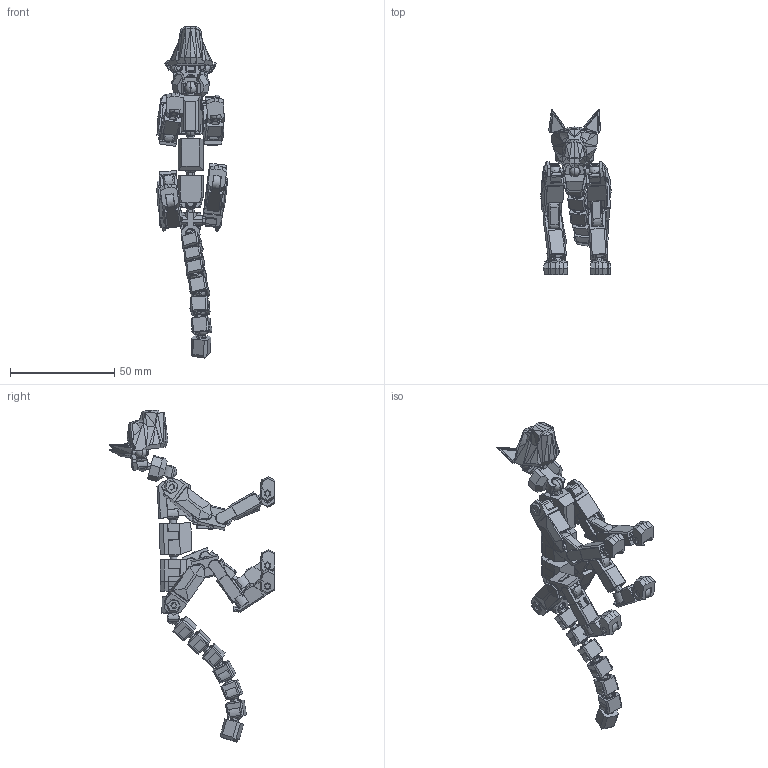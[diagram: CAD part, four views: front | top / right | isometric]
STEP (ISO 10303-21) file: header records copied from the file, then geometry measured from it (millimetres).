
FILE_DESCRIPTION (( 'STEP AP203' ), '1' );
FILE_NAME ('Gyro 7 Assembled.STEP', '2024-01-22T20:02:23', ( '' ), ( '' ), 'SwSTEP 2.0', 'SolidWorks 2022', '' );
FILE_SCHEMA (( 'CONFIG_CONTROL_DESIGN' ));
Length unit declared in the file: millimetre
Products named in the file (38): BasicBone1_StraigtAndFree; Part9^Assem1; Part6^Assem1_2; Part5^Assem1; KneePlating; LegPlating; BasicBone1_Neck; PawClaw; BasicBone1_Pelvis Front; Ear; Part8^Assem1_2; BasicBone1_Alternitve end; Part6^Assem1; Part2^Assem1; Gyro 7 Assembled; Paw; LegPlating_2; Part8^Assem1; NeckPlating; BasicBone1; Part1^Assem1; Part7^Assem1_2; BasicBone1_End Hand; PawClaw_ForntPaw; Part4^Assem1_2; Part10^Assem1; Part3^Assem1; Head2; NeckPlating2; Part7^Assem1; Part11^Assem1; BasicBone1_Pelvis; BasicBone1_-8; Part4^Assem1; BasicBone1_90Turn2; BasicBone1_Head; BasicBone1_+7.5 -2; 180 Hinge
Assembly tree (75 placements, depth 2):
  Part5^Assem1
  Gyro 7 Assembled
    BasicBone1  x2
    BasicBone1_Pelvis
    BasicBone1_Pelvis Front
    BasicBone1_90Turn2  x4
    BasicBone1_Neck
    180 Hinge  x4
    BasicBone1_+7.5 -2  x2
    BasicBone1_StraigtAndFree  x2
    BasicBone1_-8  x6
    BasicBone1_Alternitve end
    BasicBone1_Head
    BasicBone1_End Hand  x2
    Paw  x2
    Head2
    Ear  x2
    NeckPlating
    NeckPlating2
    KneePlating  x4
    LegPlating  x4
    LegPlating_2  x4
    Part1^Assem1  x4
    PawClaw  x2
    PawClaw_ForntPaw  x2
    Part2^Assem1
    Part3^Assem1
    Part4^Assem1
    Part4^Assem1_2
    Part6^Assem1_2
    Part6^Assem1
    Part7^Assem1  x2
    Part8^Assem1  x3
    Part8^Assem1_2
    Part7^Assem1_2  x2
    Part9^Assem1
    Part11^Assem1  x6
  Part10^Assem1
Bounding box: 33.63 x 79.21 x 158.95 mm (x, y, z)
Volume: 31737.6 mm3; surface area: 38856.6 mm2
Topology: 79 solids, 79 shells, 3244 faces, 8872 edges, 5760 vertices
Faces by surface type: plane 1954, cylinder 566, torus 341, sphere 199, cone 124, bspline 60
Entity records: 56704 total; most frequent: CARTESIAN_POINT 11529, ORIENTED_EDGE 8450, DIRECTION 8375, EDGE_CURVE 4225, AXIS2_PLACEMENT_3D 2885, VERTEX_POINT 2726, LINE 2605, VECTOR 2605
